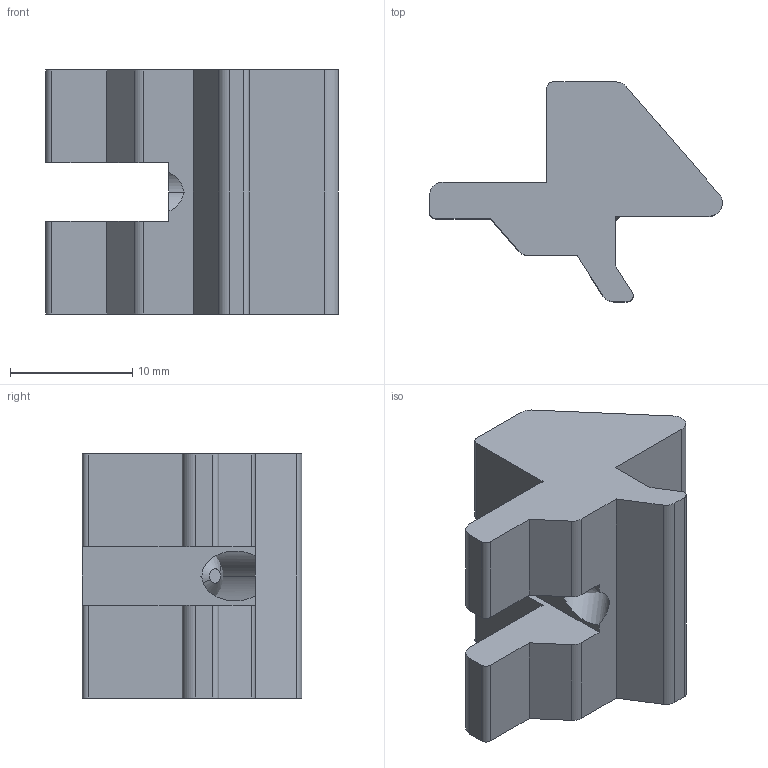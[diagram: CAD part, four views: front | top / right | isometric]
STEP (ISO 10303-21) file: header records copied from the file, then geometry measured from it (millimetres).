
FILE_DESCRIPTION (( 'STEP AP214' ), '1' );
FILE_NAME ('SNSD.30.51.93. Êëèïñà âèíòîâàÿ äëÿ ñåòêè, Ïàç 10(A37).STEP', '2015-01-15T13:00:21', ( 'XTreme.ws' ), ( 'XTreme.ws' ), 'SwSTEP 2.0', 'SolidWorks 2014', '' );
FILE_SCHEMA (( 'AUTOMOTIVE_DESIGN' ));
Length unit declared in the file: millimetre
Products named in the file (5): SNSD.30.51.93. Êëèïñà âèíòîâàÿ äëÿ ñåòêè, Ïàç 10(A37); SNSD.30.51.93. Êëèïñà âèíòîâàÿ äëÿ ñåòêè, Ïàç 10(A37)_00; SNSD.30.51.93. Âèíò Ì5(A37)_00; SNSD.30.51.93. Âèíò Ì5(A37)
Assembly tree (2 placements, depth 2):
  SNSD.30.51.93. Êëèïñà âèíòîâàÿ äëÿ ñåòêè, Ïàç 10(A37)
  SNSD.30.51.93. Êëèïñà âèíòîâàÿ äëÿ ñåòêè, Ïàç 10(A37)
    SNSD.30.51.93. Êëèïñà âèíòîâàÿ äëÿ ñåòêè, Ïàç 10(A37)_00
    SNSD.30.51.93. Âèíò Ì5(A37)_00
  SNSD.30.51.93. Âèíò Ì5(A37)
Bounding box: 24 x 18 x 20 mm (x, y, z)
Volume: 3486.8 mm3; surface area: 2203.8 mm2
Topology: 2 solids, 2 shells, 53 faces, 141 edges, 92 vertices
Faces by surface type: plane 32, cylinder 17, cone 4
Entity records: 1805 total; most frequent: CARTESIAN_POINT 304, DIRECTION 291, ORIENTED_EDGE 282, EDGE_CURVE 141, VECTOR 101, LINE 101, AXIS2_PLACEMENT_3D 95, VERTEX_POINT 92
